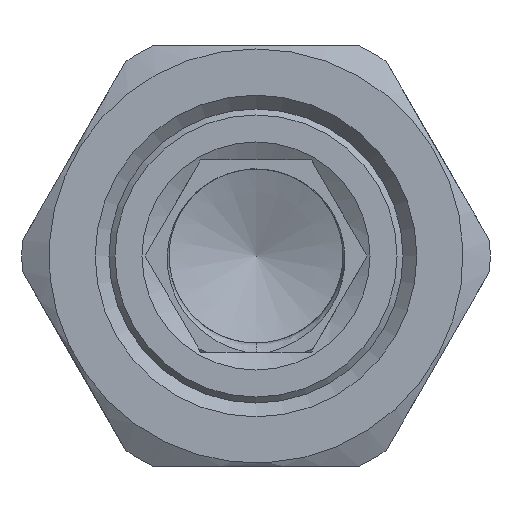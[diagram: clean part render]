
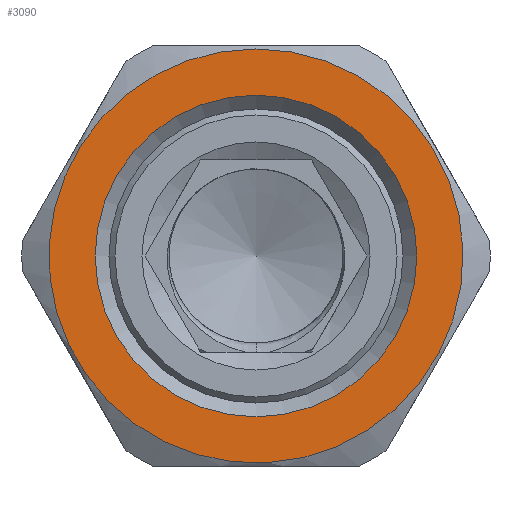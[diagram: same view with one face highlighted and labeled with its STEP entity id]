
A CAD part, left-side view. The second image highlights one B-rep face of the part: STEP entity #3090.
In plain terms, the highlighted planar face has unit normal (-1, 0, 0).
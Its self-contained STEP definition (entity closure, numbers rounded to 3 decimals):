
#70 = ORIENTED_EDGE ( 'NONE', *, *, #1078, .T. ) ;
#102 = CIRCLE ( 'NONE', #810, 13.4 ) ;
#148 = DIRECTION ( 'NONE',  ( 0., 0., 1. ) ) ;
#520 = DIRECTION ( 'NONE',  ( 0., 0., -1. ) ) ;
#681 = ORIENTED_EDGE ( 'NONE', *, *, #3972, .F. ) ;
#810 = AXIS2_PLACEMENT_3D ( 'NONE', #3625, #1128, #2348 ) ;
#1078 = EDGE_CURVE ( 'NONE', #3679, #3679, #3382, .T. ) ;
#1128 = DIRECTION ( 'NONE',  ( -1., 0., 0. ) ) ;
#1332 = DIRECTION ( 'NONE',  ( -1., 0., 0. ) ) ;
#1687 = VERTEX_POINT ( 'NONE', #4008 ) ;
#2348 = DIRECTION ( 'NONE',  ( 0., 0., 1. ) ) ;
#2910 = CARTESIAN_POINT ( 'NONE',  ( 0., 13.4, 0. ) ) ;
#3014 = FACE_OUTER_BOUND ( 'NONE', #4975, .T. ) ;
#3090 = ADVANCED_FACE ( 'NONE', ( #3470, #3014 ), #4113, .F. ) ;
#3157 = CARTESIAN_POINT ( 'NONE',  ( 0., 0., 17.25 ) ) ;
#3358 = EDGE_LOOP ( 'NONE', ( #681 ) ) ;
#3382 = CIRCLE ( 'NONE', #4170, 17.25 ) ;
#3470 = FACE_BOUND ( 'NONE', #3358, .T. ) ;
#3625 = CARTESIAN_POINT ( 'NONE',  ( 0., 0., 0. ) ) ;
#3679 = VERTEX_POINT ( 'NONE', #3157 ) ;
#3761 = CARTESIAN_POINT ( 'NONE',  ( 0., 0., 0. ) ) ;
#3763 = DIRECTION ( 'NONE',  ( 1., 0., 0. ) ) ;
#3972 = EDGE_CURVE ( 'NONE', #1687, #1687, #102, .T. ) ;
#4008 = CARTESIAN_POINT ( 'NONE',  ( 0., 0., 13.4 ) ) ;
#4113 = PLANE ( 'NONE',  #4885 ) ;
#4170 = AXIS2_PLACEMENT_3D ( 'NONE', #3761, #1332, #148 ) ;
#4885 = AXIS2_PLACEMENT_3D ( 'NONE', #2910, #3763, #520 ) ;
#4975 = EDGE_LOOP ( 'NONE', ( #70 ) ) ;
